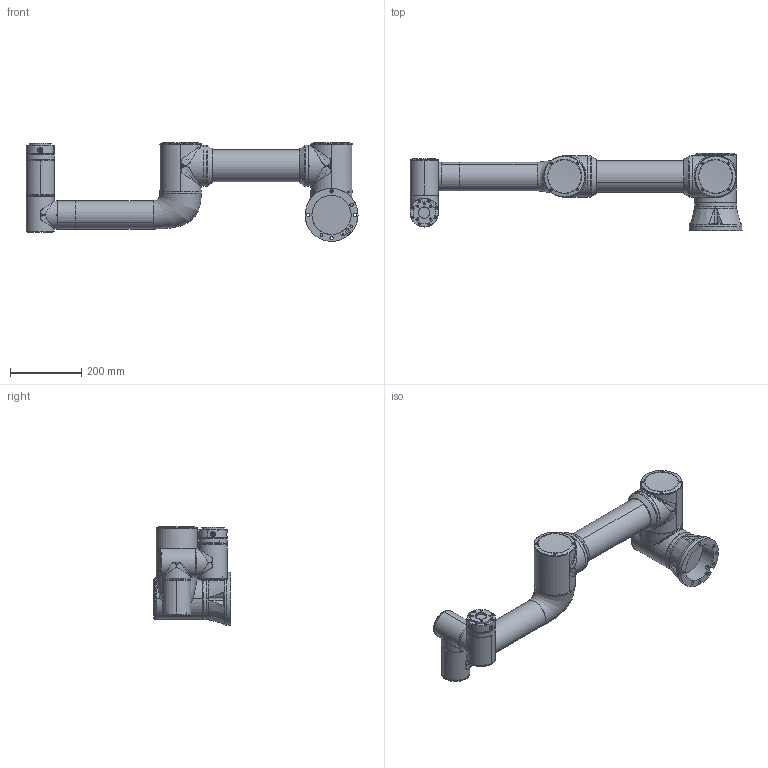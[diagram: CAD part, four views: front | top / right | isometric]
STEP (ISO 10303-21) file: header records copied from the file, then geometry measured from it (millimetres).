
FILE_DESCRIPTION (( 'STEP AP214' ), '1' );
FILE_NAME ('RD20-FR5-V6.0Èí¼þÄ£ÐÍ.STEP', '2024-07-05T00:07:16', ( '' ), ( '' ), 'SwSTEP 2.0', 'SolidWorks 2018', '' );
FILE_SCHEMA (( 'AUTOMOTIVE_DESIGN' ));
Length unit declared in the file: millimetre
Products named in the file (8): RD20-FR5-V6.0软件模型; RD20-FR5-V6.0-3; RD20-FR5-V6.0-2; RD20-FR5-V6.0-6; RD20-FR5-V6.0-7; RD20-FR5-V6.0-4; RD20-FR5-V6.0-5; RD20-FR5-V6.0-1
Assembly tree (7 placements, depth 2):
  RD20-FR5-V6.0软件模型
    RD20-FR5-V6.0-1
    RD20-FR5-V6.0-2
    RD20-FR5-V6.0-3
    RD20-FR5-V6.0-4
    RD20-FR5-V6.0-5
    RD20-FR5-V6.0-6
    RD20-FR5-V6.0-7
Bounding box: 934.5 x 217.39 x 277.89 mm (x, y, z)
Volume: 11824732.2 mm3; surface area: 738610.1 mm2
Topology: 49 solids, 61 shells, 1959 faces, 4405 edges, 2736 vertices
Faces by surface type: plane 818, cylinder 602, bspline 347, cone 132, torus 36, sphere 24
Full cylindrical faces by diameter (mm): 2.5 x2, 3 x24, 3.4 x16, 6 x24, 8 x1, 9 x4, 61.5 x3, 62 x3, 62.5 x3, 75 x1, 79 x1, 80 x6, 94 x3, 95 x3, 110 x2, 110.5 x1, 111.5 x1, 116 x9
Entity records: 146100 total; most frequent: CARTESIAN_POINT 102067, ORIENTED_EDGE 8228, DIRECTION 7880, EDGE_CURVE 4114, AXIS2_PLACEMENT_3D 3077, VERTEX_POINT 2638, EDGE_LOOP 2364, FACE_OUTER_BOUND 2133
